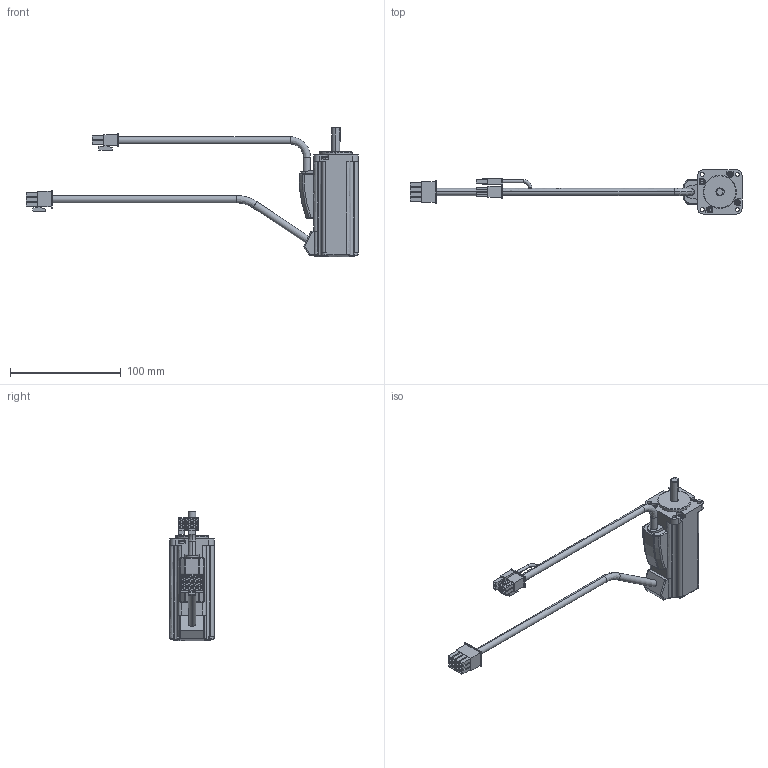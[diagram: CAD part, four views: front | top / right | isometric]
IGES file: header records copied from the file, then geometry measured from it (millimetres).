
Start section:  PTC IGES file: 10001001_rsmz-a3ba_brake.igs
Global section: file name: 10001001_rsmz-a3ba_brake.igs; native system: Pro/ENGINEER by Parametric Technology Corporation; preprocessor: 2004440; author: Administrator; organization: Unknown; date: 070829.201212; units: millimetre
Bounding box: 299.76 x 40 x 117 mm (x, y, z)
Volume: 164376.2 mm3; surface area: 36304.5 mm2
Topology: 1 solids, 1 shells, 529 faces, 1326 edges, 861 vertices
Faces by surface type: bspline 379, revolution 150
